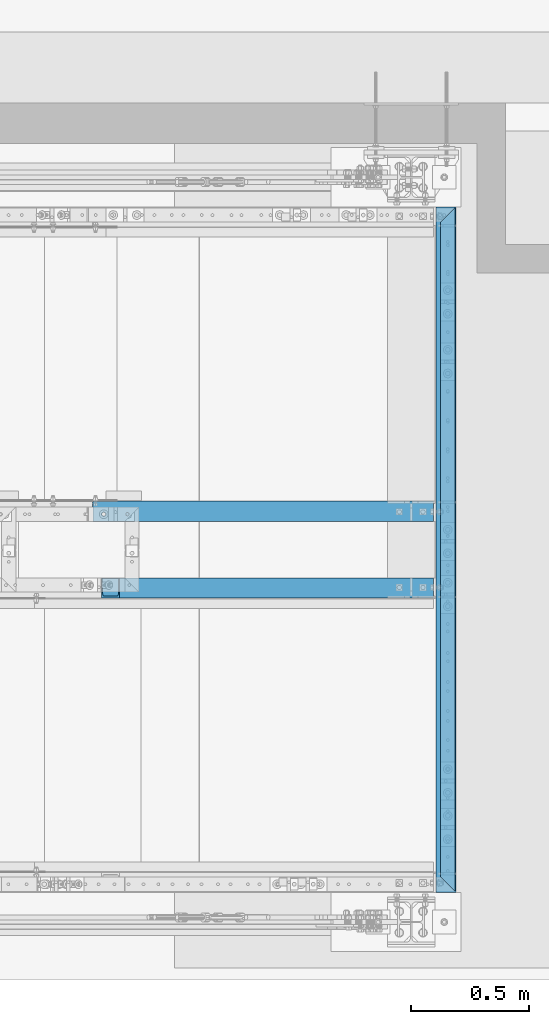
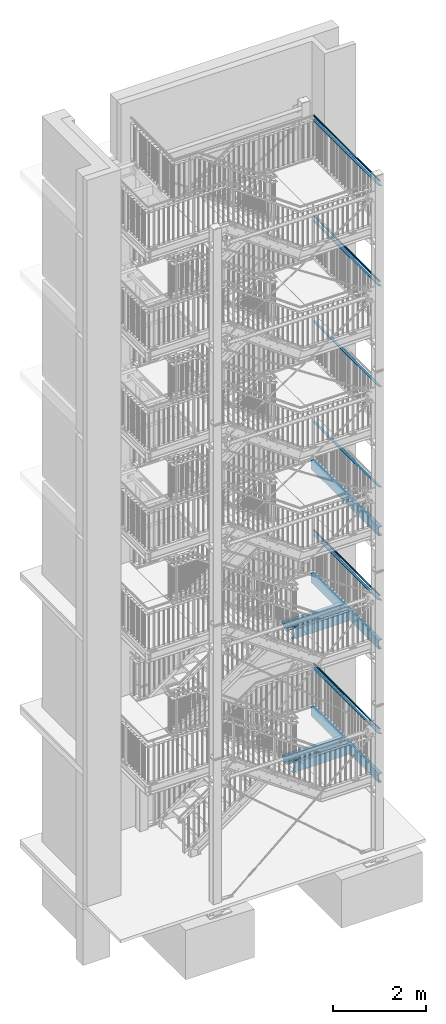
# One storey, part 131 of 831: 17 beams, 54 openings.
"""IFC2X3 building model written with IfcOpenShell, lengths in millimetres."""

from ifc_helpers import new_model, entity, si_unit, converted_unit, frame, frame_2d, origin, origin_with_axes, origin_2d, origin_2d_with_axis, place, context, project, spatial, rectangle, circle, hollow_circle, u_section, extrude, clip, halfspace, material, element, save


model = new_model("IFC2X3")

# Units and contexts
model_context = context("Model", 3, precision=1e-09, world=origin_with_axes())
ifc_project = project(units=[si_unit("LENGTHUNIT", "METRE", prefix="MILLI"), si_unit("AREAUNIT", "SQUARE_METRE"), si_unit("VOLUMEUNIT", "CUBIC_METRE"), converted_unit("PLANEANGLEUNIT", "DEGREE", entity("IfcPlaneAngleMeasure", 0.01745329), si_unit("PLANEANGLEUNIT", "RADIAN"), dimensions=[0, 0, 0, 0, 0, 0, 0])], contexts=[model_context])

# Site, building, storey
site_placement = place(None, origin_with_axes())
site = spatial("IfcSite", under=ifc_project, at=site_placement, Name="Site", CompositionType="ELEMENT")
building_placement = place(site_placement, origin_with_axes())
building = spatial("IfcBuilding", under=site, at=building_placement, Name="Struktur 1", CompositionType="ELEMENT")
storey_placement = place(building_placement, origin_with_axes())
storey = spatial("IfcBuildingStorey", under=building, at=storey_placement, Name="Default Storey", CompositionType="ELEMENT", Elevation=0.0)

# Beams
ifc_material = material(Name="S235JR")
beam_1_placement = place(None, frame((9012.913402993, 7390.336971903, 15036.5000001), z_axis=(0.0, 1.0, 0.0), x_axis=(0.0, 0.0, -1.0)))
element("IfcBeam", 1, at=beam_1_placement, inside=storey, material=ifc_material, Name="Gel?nder", ObjectType="Gel?nder", context=model_context, shape_type="Clipping", body=[
    clip(clip(extrude(hollow_circle(Radius=21.2, WallThickness=3.2, at=origin_2d()), origin(), (0.0, 0.0, -1.0), 2897.2), halfspace(frame((15036.5000001, 8180.424480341, -8222.825894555), z_axis=(0.0, -0.707106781, -0.707106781), x_axis=(0.0, -0.707106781, 0.707106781)), True)), halfspace(frame((15036.5000001, 2238.687508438, -616.111077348), z_axis=(0.0, -0.707106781, 0.707106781), x_axis=(0.0, 0.707106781, 0.707106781)), True)),
])
beam_2_placement = place(None, frame((9012.913402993, 7390.336971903, 17664.0000003), z_axis=(0.0, 1.0, 0.0), x_axis=(0.0, 0.0, -1.0)))
element("IfcBeam", 2, at=beam_2_placement, inside=storey, material=ifc_material, Name="Gel?nder", ObjectType="Gel?nder", context=model_context, shape_type="Clipping", body=[
    clip(clip(extrude(hollow_circle(Radius=21.2, WallThickness=3.2, at=origin_2d()), origin(), (0.0, 0.0, -1.0), 2897.2), halfspace(frame((17664.0000003, 8180.424480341, -8222.825894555), z_axis=(0.0, -0.707106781, -0.707106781), x_axis=(0.0, -0.707106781, 0.707106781)), True)), halfspace(frame((17664.0000003, 2238.687508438, -616.111077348), z_axis=(0.0, -0.707106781, 0.707106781), x_axis=(0.0, 0.707106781, 0.707106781)), True)),
])
beam_3_placement = place(None, frame((9021.713402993, 7399.748598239, 17537.8000003), z_axis=(0.0, 1.0, 0.0), x_axis=(0.0, 0.0, -1.0)))
element("IfcBeam", 3, at=beam_3_placement, inside=storey, material=ifc_material, Name="Railing_Kneerail_Landing#1008", ObjectType="Railing_Kneerail_Landing#1008", context=model_context, shape_type="Clipping", body=[
    clip(clip(extrude(rectangle(XDim=10.0, YDim=60.0, at=origin_2d()), origin(), (0.0, 0.0, -1.0), 2916.02325267), halfspace(frame((17537.8000003, 8189.224480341, -8232.23752089), z_axis=(0.0, -0.707106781, -0.707106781), x_axis=(0.0, -0.707106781, 0.707106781)), True)), halfspace(frame((17537.8000003, 2247.487508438, -625.522703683), z_axis=(0.0, -0.707106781, 0.707106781), x_axis=(0.0, 0.707106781, 0.707106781)), True)),
])
beam_4_placement = place(None, frame((9021.713402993, 7399.748598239, 14910.3000001), z_axis=(0.0, 1.0, 0.0), x_axis=(0.0, 0.0, -1.0)))
element("IfcBeam", 4, at=beam_4_placement, inside=storey, material=ifc_material, Name="Railing_Kneerail_Landing#1011", ObjectType="Railing_Kneerail_Landing#1011", context=model_context, shape_type="Clipping", body=[
    clip(clip(extrude(rectangle(XDim=10.0, YDim=60.0, at=origin_2d()), origin(), (0.0, 0.0, -1.0), 2916.02325267), halfspace(frame((14910.3000001, 2247.487508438, -625.522703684), z_axis=(0.0, -0.707106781, 0.707106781), x_axis=(0.0, 0.707106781, 0.707106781)), True)), halfspace(frame((14910.3000001, 8189.224480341, -8232.23752089), z_axis=(0.0, -0.707106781, -0.707106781), x_axis=(0.0, -0.707106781, 0.707106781)), True)),
])
beam_5_placement = place(None, frame((9021.713402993, 7399.748598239, 12279.3000003), z_axis=(0.0, 1.0, 0.0), x_axis=(0.0, 0.0, -1.0)))
element("IfcBeam", 5, at=beam_5_placement, inside=storey, material=ifc_material, Name="Railing_Kneerail_Landing#1008", ObjectType="Railing_Kneerail_Landing#1008", context=model_context, shape_type="Clipping", body=[
    clip(clip(extrude(rectangle(XDim=10.0, YDim=60.0, at=origin_2d()), origin(), (0.0, 0.0, -1.0), 2916.02325267), halfspace(frame((12279.3000003, 8189.224480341, -8232.23752089), z_axis=(0.0, -0.707106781, -0.707106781), x_axis=(0.0, -0.707106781, 0.707106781)), True)), halfspace(frame((12279.3000003, 2247.487508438, -625.522703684), z_axis=(0.0, -0.707106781, 0.707106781), x_axis=(0.0, 0.707106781, 0.707106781)), True)),
])
beam_6_placement = place(None, frame((9021.713402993, 7399.748598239, 9649.8), z_axis=(0.0, 1.0, 0.0), x_axis=(0.0, 0.0, -1.0)))
element("IfcBeam", 6, at=beam_6_placement, inside=storey, material=ifc_material, Name="Railing_Kneerail_Landing#1011", ObjectType="Railing_Kneerail_Landing#1011", context=model_context, shape_type="Clipping", body=[
    clip(clip(extrude(rectangle(XDim=10.0, YDim=60.0, at=origin_2d()), origin(), (0.0, 0.0, -1.0), 2916.02325267), halfspace(frame((9649.8, 2247.487508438, -625.522703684), z_axis=(0.0, -0.707106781, 0.707106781), x_axis=(0.0, 0.707106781, 0.707106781)), True)), halfspace(frame((9649.8, 8189.224480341, -8232.23752089), z_axis=(0.0, -0.707106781, -0.707106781), x_axis=(0.0, -0.707106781, 0.707106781)), True)),
])
beam_7_placement = place(None, frame((9021.713402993, 7399.748598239, 6688.6947367), z_axis=(0.0, 1.0, 0.0), x_axis=(0.0, 0.0, -1.0)))
element("IfcBeam", 7, at=beam_7_placement, inside=storey, material=ifc_material, Name="Railing_Kneerail_Landing#1008", ObjectType="Railing_Kneerail_Landing#1008", context=model_context, shape_type="Clipping", body=[
    clip(clip(extrude(rectangle(XDim=10.0, YDim=60.0, at=origin_2d()), origin(), (0.0, 0.0, -1.0), 2916.02325267), halfspace(frame((6688.6947367, 8189.224480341, -8232.23752089), z_axis=(0.0, -0.707106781, -0.707106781), x_axis=(0.0, -0.707106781, 0.707106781)), True)), halfspace(frame((6688.6947367, 2247.487508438, -625.522703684), z_axis=(0.0, -0.707106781, 0.707106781), x_axis=(0.0, 0.707106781, 0.707106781)), True)),
])
beam_8_placement = place(None, frame((9021.713402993, 7399.748598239, 3194.8526312), z_axis=(0.0, 1.0, 0.0), x_axis=(0.0, 0.0, -1.0)))
element("IfcBeam", 8, at=beam_8_placement, inside=storey, material=ifc_material, Name="Railing_Kneerail_Landing#1006", ObjectType="Railing_Kneerail_Landing#1006", context=model_context, shape_type="Clipping", body=[
    clip(clip(extrude(rectangle(XDim=10.0, YDim=60.0, at=origin_2d()), origin(), (0.0, 0.0, -1.0), 2916.02325267), halfspace(frame((3194.8526312, 8189.224480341, -8232.23752089), z_axis=(0.0, -0.707106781, -0.707106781), x_axis=(0.0, -0.707106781, 0.707106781)), True)), halfspace(frame((3194.8526312, 2247.487508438, -625.522703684), z_axis=(0.0, -0.707106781, 0.707106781), x_axis=(0.0, 0.707106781, 0.707106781)), True)),
])
beam_9_placement = place(None, frame((9012.913402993, 7390.336971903, 3321.0526312), z_axis=(0.0, 1.0, 0.0), x_axis=(0.0, 0.0, -1.0)))
element("IfcBeam", 9, at=beam_9_placement, inside=storey, material=ifc_material, Name="Gel?nder", ObjectType="Gel?nder", context=model_context, shape_type="Clipping", body=[
    clip(clip(extrude(hollow_circle(Radius=21.2, WallThickness=3.2, at=origin_2d()), origin(), (0.0, 0.0, -1.0), 2897.2), halfspace(frame((3321.0526312, 8180.424480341, -8222.825894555), z_axis=(0.0, -0.707106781, -0.707106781), x_axis=(0.0, -0.707106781, 0.707106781)), True)), halfspace(frame((3321.0526312, 2238.687508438, -616.111077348), z_axis=(0.0, -0.707106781, 0.707106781), x_axis=(0.0, 0.707106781, 0.707106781)), True)),
])
beam_10_placement = place(None, frame((9012.913402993, 7390.336971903, 6814.8947367), z_axis=(0.0, 1.0, 0.0), x_axis=(0.0, 0.0, -1.0)))
element("IfcBeam", 10, at=beam_10_placement, inside=storey, material=ifc_material, Name="Gel?nder", ObjectType="Gel?nder", context=model_context, shape_type="Clipping", body=[
    clip(clip(extrude(hollow_circle(Radius=21.2, WallThickness=3.2, at=origin_2d()), origin(), (0.0, 0.0, -1.0), 2897.2), halfspace(frame((6814.8947367, 8180.424480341, -8222.825894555), z_axis=(0.0, -0.707106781, -0.707106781), x_axis=(0.0, -0.707106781, 0.707106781)), True)), halfspace(frame((6814.8947367, 2238.687508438, -616.111077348), z_axis=(0.0, -0.707106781, 0.707106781), x_axis=(0.0, 0.707106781, 0.707106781)), True)),
])

# Beam, openings
beam_11_placement = place(None, frame((7260.434507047, 6124.436971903, 5554.8947367), z_axis=(-1.0, 0.0, 0.0), x_axis=(0.0, -1.0, 0.0)))
beam_11 = element("IfcBeam", 11, at=beam_11_placement, inside=storey, material=ifc_material, Name="Stringer", ObjectType="Stringer", context=model_context, shape_type="Clipping", body=[
    clip(clip(extrude(u_section(Depth=240.0, FlangeWidth=85.0, WebThickness=9.5, FlangeThickness=13.0, FilletRadius=13.0, EdgeRadius=6.5, FlangeSlope=4.574, at=frame_2d((20.2, 0.0))), origin(), (0.0, 0.0, -1.0), 1958.582666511), halfspace(frame((6124.436971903, -5554.8947367, -1701.277895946), z_axis=(0.0, 0.0, 1.0), x_axis=(1.0, 0.0, 0.0)), True)), halfspace(frame((6124.436971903, -2876.228700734, -1207.214407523), z_axis=(0.0, 0.301609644, -0.953431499), x_axis=(-1.0, 0.0, 0.0)), True)),
])
opening_1_placement = place(beam_11_placement, frame((32.7, 120.5, -399.278395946), z_axis=(0.0, 1.0, 0.0), x_axis=(-1.0, 0.0, 0.0)))
element("IfcOpeningElement", 12, at=opening_1_placement, cuts=beam_11, ObjectType="Opening", context=model_context, shape_type="SweptSolid", body=[
    extrude(circle(Radius=7.001, at=frame_2d((0.0, -7.001), x_axis=(1.0, 0.0))), origin(), (0.0, 0.0, -1.0), 14.0),
])
opening_2_placement = place(beam_11_placement, frame((32.7, 120.5, -299.278395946), z_axis=(0.0, 1.0, 0.0), x_axis=(-1.0, 0.0, 0.0)))
element("IfcOpeningElement", 13, at=opening_2_placement, cuts=beam_11, ObjectType="Opening", context=model_context, shape_type="SweptSolid", body=[
    extrude(circle(Radius=7.001, at=frame_2d((0.0, -7.001), x_axis=(1.0, 0.0))), origin(), (0.0, 0.0, -1.0), 14.0),
])
opening_3_placement = place(beam_11_placement, frame((22.7, -120.5, -1556.278895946), z_axis=(0.0, 1.0, 0.0), x_axis=(-1.0, 0.0, 0.0)))
element("IfcOpeningElement", 14, at=opening_3_placement, cuts=beam_11, ObjectType="Opening", context=model_context, shape_type="SweptSolid", body=[
    extrude(circle(Radius=7.001, at=origin_2d_with_axis()), origin(), (0.0, 0.0, 1.0), 14.0),
])
opening_4_placement = place(beam_11_placement, frame((22.7, -120.5, -1656.278895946), z_axis=(0.0, 1.0, 0.0), x_axis=(-1.0, 0.0, 0.0)))
element("IfcOpeningElement", 15, at=opening_4_placement, cuts=beam_11, ObjectType="Opening", context=model_context, shape_type="SweptSolid", body=[
    extrude(circle(Radius=7.001, at=origin_2d_with_axis()), origin(), (0.0, 0.0, 1.0), 14.0),
])

beam_12_placement = place(None, frame((7260.901415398, 6124.436971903, 2061.0526312), z_axis=(-1.0, 0.0, 0.0), x_axis=(0.0, -1.0, 0.0)))
beam_12 = element("IfcBeam", 16, at=beam_12_placement, inside=storey, material=ifc_material, Name="Stringer", ObjectType="Stringer", context=model_context, shape_type="Clipping", body=[
    clip(clip(extrude(u_section(Depth=240.0, FlangeWidth=85.0, WebThickness=9.5, FlangeThickness=13.0, FilletRadius=13.0, EdgeRadius=6.5, FlangeSlope=4.574, at=frame_2d((20.2, 0.0))), origin(), (0.0, 0.0, -1.0), 1958.11575816), halfspace(frame((6124.436971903, -2061.0526312, -1700.810987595), z_axis=(0.0, 0.0, 1.0), x_axis=(1.0, 0.0, 0.0)), True)), halfspace(frame((6124.436971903, 321.948595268, -195.084170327), z_axis=(0.0, 0.304437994, -0.952532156), x_axis=(-1.0, 0.0, 0.0)), True)),
])
opening_5_placement = place(beam_12_placement, frame((32.7, 120.5, -398.811487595), z_axis=(0.0, 1.0, 0.0), x_axis=(-1.0, 0.0, 0.0)))
element("IfcOpeningElement", 17, at=opening_5_placement, cuts=beam_12, ObjectType="Opening", context=model_context, shape_type="SweptSolid", body=[
    extrude(circle(Radius=7.001, at=frame_2d((0.0, -7.001), x_axis=(1.0, 0.0))), origin(), (0.0, 0.0, -1.0), 14.0),
])
opening_6_placement = place(beam_12_placement, frame((32.7, 120.5, -298.811487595), z_axis=(0.0, 1.0, 0.0), x_axis=(-1.0, 0.0, 0.0)))
element("IfcOpeningElement", 18, at=opening_6_placement, cuts=beam_12, ObjectType="Opening", context=model_context, shape_type="SweptSolid", body=[
    extrude(circle(Radius=7.001, at=frame_2d((0.0, -7.001), x_axis=(1.0, 0.0))), origin(), (0.0, 0.0, -1.0), 14.0),
])
opening_7_placement = place(beam_12_placement, frame((22.7, -120.5, -1555.811987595), z_axis=(0.0, 1.0, 0.0), x_axis=(-1.0, 0.0, 0.0)))
element("IfcOpeningElement", 19, at=opening_7_placement, cuts=beam_12, ObjectType="Opening", context=model_context, shape_type="SweptSolid", body=[
    extrude(circle(Radius=7.001, at=origin_2d_with_axis()), origin(), (0.0, 0.0, 1.0), 14.0),
])
opening_8_placement = place(beam_12_placement, frame((22.7, -120.5, -1655.811987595), z_axis=(0.0, 1.0, 0.0), x_axis=(-1.0, 0.0, 0.0)))
element("IfcOpeningElement", 20, at=opening_8_placement, cuts=beam_12, ObjectType="Opening", context=model_context, shape_type="SweptSolid", body=[
    extrude(circle(Radius=7.001, at=origin_2d_with_axis()), origin(), (0.0, 0.0, 1.0), 14.0),
])

beam_13_placement = place(None, frame((9219.017173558, 5759.036971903, 2061.0526312), z_axis=(1.0, 0.0, 0.0), x_axis=(0.0, 1.0, 0.0)))
beam_13 = element("IfcBeam", 21, at=beam_13_placement, inside=storey, material=ifc_material, Name="BottomLanding#1", ObjectType="BottomLanding#1", context=model_context, shape_type="Clipping", body=[
    clip(clip(extrude(u_section(Depth=240.0, FlangeWidth=85.0, WebThickness=9.5, FlangeThickness=13.0, FilletRadius=13.0, EdgeRadius=6.5, FlangeSlope=4.574, at=frame_2d((20.2, 0.0))), origin(), (0.0, 0.0, -1.0), 1845.747262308), halfspace(frame((-5759.036971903, -2061.0526312, -257.304770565), z_axis=(0.0, 0.0, -1.0), x_axis=(-1.0, 0.0, 0.0)), True)), halfspace(frame((-5759.036971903, -4072.348471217, -2926.031410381), z_axis=(0.0, -0.304437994, 0.952532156), x_axis=(1.0, 0.0, 0.0)), True)),
])
opening_9_placement = place(beam_13_placement, frame((15.699, -120.5, -402.303770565), z_axis=(0.0, -1.0, 0.0), x_axis=(1.0, 0.0, 0.0)))
element("IfcOpeningElement", 22, at=opening_9_placement, cuts=beam_13, ObjectType="Opening", context=model_context, shape_type="SweptSolid", body=[
    extrude(circle(Radius=7.001, at=frame_2d((7.001, 0.0), x_axis=(1.0, 0.0))), origin(), (0.0, 0.0, -1.0), 14.0),
])
opening_10_placement = place(beam_13_placement, frame((15.699, -120.5, -302.303770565), z_axis=(0.0, -1.0, 0.0), x_axis=(1.0, 0.0, 0.0)))
element("IfcOpeningElement", 23, at=opening_10_placement, cuts=beam_13, ObjectType="Opening", context=model_context, shape_type="SweptSolid", body=[
    extrude(circle(Radius=7.001, at=frame_2d((7.001, 0.0), x_axis=(1.0, 0.0))), origin(), (0.0, 0.0, -1.0), 14.0),
])

beam_14_placement = place(None, frame((9219.017173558, 5759.036971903, 5554.8947367), z_axis=(1.0, 0.0, 0.0), x_axis=(0.0, 1.0, 0.0)))
beam_14 = element("IfcBeam", 24, at=beam_14_placement, inside=storey, material=ifc_material, Name="BottomLanding#1", ObjectType="BottomLanding#1", context=model_context, shape_type="Clipping", body=[
    clip(clip(extrude(u_section(Depth=240.0, FlangeWidth=85.0, WebThickness=9.5, FlangeThickness=13.0, FilletRadius=13.0, EdgeRadius=6.5, FlangeSlope=4.574, at=frame_2d((20.2, 0.0))), origin(), (0.0, 0.0, -1.0), 1844.790556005), halfspace(frame((-5759.036971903, -5554.8947367, -257.304770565), z_axis=(0.0, 0.0, -1.0), x_axis=(-1.0, 0.0, 0.0)), True)), halfspace(frame((-5759.036971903, -7233.811372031, -3911.720022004), z_axis=(0.0, -0.301609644, 0.953431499), x_axis=(1.0, 0.0, 0.0)), True)),
])
opening_11_placement = place(beam_14_placement, frame((15.699, -120.5, -402.303770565), z_axis=(0.0, -1.0, 0.0), x_axis=(1.0, 0.0, 0.0)))
element("IfcOpeningElement", 25, at=opening_11_placement, cuts=beam_14, ObjectType="Opening", context=model_context, shape_type="SweptSolid", body=[
    extrude(circle(Radius=7.001, at=frame_2d((7.001, 0.0), x_axis=(1.0, 0.0))), origin(), (0.0, 0.0, -1.0), 14.0),
])
opening_12_placement = place(beam_14_placement, frame((15.699, -120.5, -302.303770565), z_axis=(0.0, -1.0, 0.0), x_axis=(1.0, 0.0, 0.0)))
element("IfcOpeningElement", 26, at=opening_12_placement, cuts=beam_14, ObjectType="Opening", context=model_context, shape_type="SweptSolid", body=[
    extrude(circle(Radius=7.001, at=frame_2d((7.001, 0.0), x_axis=(1.0, 0.0))), origin(), (0.0, 0.0, -1.0), 14.0),
])

beam_15_placement = place(None, frame((8994.013402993, 7391.736971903, 2061.0526312), z_axis=(0.0, -1.0, 0.0), x_axis=(1.0, 0.0, 0.0)))
beam_15 = element("IfcBeam", 27, at=beam_15_placement, inside=storey, material=ifc_material, Name="Girder", ObjectType="Girder", context=model_context, shape_type="SweptSolid", body=[
    extrude(u_section(Depth=240.0, FlangeWidth=85.0, WebThickness=9.5, FlangeThickness=13.0, FilletRadius=13.0, EdgeRadius=6.5, FlangeSlope=4.574, at=frame_2d((20.2, 0.0))), origin(), (0.0, 0.0, 1.0), 2900.0),
])
opening_13_placement = place(beam_15_placement, frame((27.7, 120.5, 2471.461175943), z_axis=(0.0, 1.0, 0.0), x_axis=(-1.0, 0.0, 0.0)))
element("IfcOpeningElement", 28, at=opening_13_placement, cuts=beam_15, ObjectType="Opening", context=model_context, shape_type="SweptSolid", body=[
    extrude(circle(Radius=7.001, at=frame_2d((0.0, 7.001), x_axis=(1.0, 0.0))), origin(), (0.0, 0.0, -1.0), 14.0),
])
opening_14_placement = place(beam_15_placement, frame((27.7, 120.5, 2371.461175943), z_axis=(0.0, 1.0, 0.0), x_axis=(-1.0, 0.0, 0.0)))
element("IfcOpeningElement", 29, at=opening_14_placement, cuts=beam_15, ObjectType="Opening", context=model_context, shape_type="SweptSolid", body=[
    extrude(circle(Radius=7.001, at=frame_2d((0.0, 7.001), x_axis=(1.0, 0.0))), origin(), (0.0, 0.0, -1.0), 14.0),
])
opening_15_placement = place(beam_15_placement, frame((27.7, 120.5, 1458.38405822), z_axis=(0.0, 1.0, 0.0), x_axis=(-1.0, 0.0, 0.0)))
element("IfcOpeningElement", 30, at=opening_15_placement, cuts=beam_15, ObjectType="Opening", context=model_context, shape_type="SweptSolid", body=[
    extrude(circle(Radius=7.001, at=frame_2d((0.0, 7.001), x_axis=(1.0, 0.0))), origin(), (0.0, 0.0, -1.0), 14.0),
])
opening_16_placement = place(beam_15_placement, frame((27.7, 120.5, 1358.38405822), z_axis=(0.0, 1.0, 0.0), x_axis=(-1.0, 0.0, 0.0)))
element("IfcOpeningElement", 31, at=opening_16_placement, cuts=beam_15, ObjectType="Opening", context=model_context, shape_type="SweptSolid", body=[
    extrude(circle(Radius=7.001, at=frame_2d((0.0, 7.001), x_axis=(1.0, 0.0))), origin(), (0.0, 0.0, -1.0), 14.0),
])
opening_17_placement = place(beam_15_placement, frame((27.7, 120.5, 445.306940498), z_axis=(0.0, 1.0, 0.0), x_axis=(-1.0, 0.0, 0.0)))
element("IfcOpeningElement", 32, at=opening_17_placement, cuts=beam_15, ObjectType="Opening", context=model_context, shape_type="SweptSolid", body=[
    extrude(circle(Radius=7.001, at=frame_2d((0.0, 7.001), x_axis=(1.0, 0.0))), origin(), (0.0, 0.0, -1.0), 14.0),
])
opening_18_placement = place(beam_15_placement, frame((27.7, 120.5, 345.306940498), z_axis=(0.0, 1.0, 0.0), x_axis=(-1.0, 0.0, 0.0)))
element("IfcOpeningElement", 33, at=opening_18_placement, cuts=beam_15, ObjectType="Opening", context=model_context, shape_type="SweptSolid", body=[
    extrude(circle(Radius=7.001, at=frame_2d((0.0, 7.001), x_axis=(1.0, 0.0))), origin(), (0.0, 0.0, -1.0), 14.0),
])
opening_19_placement = place(beam_15_placement, frame((-12.3, 0.0, 1610.0), z_axis=(-1.0, 0.0, 0.0), x_axis=(0.0, 1.0, 0.0)))
element("IfcOpeningElement", 34, at=opening_19_placement, cuts=beam_15, ObjectType="Opening", context=model_context, shape_type="SweptSolid", body=[
    extrude(circle(Radius=9.001, at=frame_2d((60.0, 0.0), x_axis=(1.0, 0.0))), origin(), (0.0, 0.0, 1.0), 10.5),
])
opening_20_placement = place(beam_15_placement, frame((-12.3, 0.0, 1610.0), z_axis=(-1.0, 0.0, 0.0), x_axis=(0.0, 1.0, 0.0)))
element("IfcOpeningElement", 35, at=opening_20_placement, cuts=beam_15, ObjectType="Opening", context=model_context, shape_type="SweptSolid", body=[
    extrude(circle(Radius=9.001, at=frame_2d((-60.0, 0.0), x_axis=(1.0, 0.0))), origin(), (0.0, 0.0, 1.0), 10.5),
])
opening_21_placement = place(beam_15_placement, frame((-12.3, 0.0, 40.0), z_axis=(-1.0, 0.0, 0.0), x_axis=(0.0, 1.0, 0.0)))
element("IfcOpeningElement", 36, at=opening_21_placement, cuts=beam_15, ObjectType="Opening", context=model_context, shape_type="SweptSolid", body=[
    extrude(circle(Radius=9.001, at=frame_2d((60.0, 0.0), x_axis=(1.0, 0.0))), origin(), (0.0, 0.0, 1.0), 10.5),
])
opening_22_placement = place(beam_15_placement, frame((-12.3, 0.0, 40.0), z_axis=(-1.0, 0.0, 0.0), x_axis=(0.0, 1.0, 0.0)))
element("IfcOpeningElement", 37, at=opening_22_placement, cuts=beam_15, ObjectType="Opening", context=model_context, shape_type="SweptSolid", body=[
    extrude(circle(Radius=9.001, at=frame_2d((-60.0, 0.0), x_axis=(1.0, 0.0))), origin(), (0.0, 0.0, 1.0), 10.5),
])
opening_23_placement = place(beam_15_placement, frame((-12.3, 50.999, 1290.0), z_axis=(1.0, 0.0, 0.0), x_axis=(0.0, 1.0, 0.0)))
element("IfcOpeningElement", 38, at=opening_23_placement, cuts=beam_15, ObjectType="Opening", context=model_context, shape_type="SweptSolid", body=[
    extrude(circle(Radius=9.001, at=frame_2d((9.001, 0.0), x_axis=(1.0, 0.0))), origin(), (0.0, 0.0, -1.0), 10.5),
])
opening_24_placement = place(beam_15_placement, frame((-12.3, -69.001, 1290.0), z_axis=(1.0, 0.0, 0.0), x_axis=(0.0, 1.0, 0.0)))
element("IfcOpeningElement", 39, at=opening_24_placement, cuts=beam_15, ObjectType="Opening", context=model_context, shape_type="SweptSolid", body=[
    extrude(circle(Radius=9.001, at=frame_2d((9.001, 0.0), x_axis=(1.0, 0.0))), origin(), (0.0, 0.0, -1.0), 10.5),
])
opening_25_placement = place(beam_15_placement, frame((-12.3, 50.999, 2860.0), z_axis=(1.0, 0.0, 0.0), x_axis=(0.0, 1.0, 0.0)))
element("IfcOpeningElement", 40, at=opening_25_placement, cuts=beam_15, ObjectType="Opening", context=model_context, shape_type="SweptSolid", body=[
    extrude(circle(Radius=9.001, at=frame_2d((9.001, 0.0), x_axis=(1.0, 0.0))), origin(), (0.0, 0.0, -1.0), 10.5),
])
opening_26_placement = place(beam_15_placement, frame((-12.3, -69.001, 2860.0), z_axis=(1.0, 0.0, 0.0), x_axis=(0.0, 1.0, 0.0)))
element("IfcOpeningElement", 41, at=opening_26_placement, cuts=beam_15, ObjectType="Opening", context=model_context, shape_type="SweptSolid", body=[
    extrude(circle(Radius=9.001, at=frame_2d((9.001, 0.0), x_axis=(1.0, 0.0))), origin(), (0.0, 0.0, -1.0), 10.5),
])

beam_16_placement = place(None, frame((8994.013402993, 7391.736971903, 5554.8947367), z_axis=(0.0, -1.0, 0.0), x_axis=(1.0, 0.0, 0.0)))
beam_16 = element("IfcBeam", 42, at=beam_16_placement, inside=storey, material=ifc_material, Name="Girder", ObjectType="Girder", context=model_context, shape_type="SweptSolid", body=[
    extrude(u_section(Depth=240.0, FlangeWidth=85.0, WebThickness=9.5, FlangeThickness=13.0, FilletRadius=13.0, EdgeRadius=6.5, FlangeSlope=4.574, at=frame_2d((20.2, 0.0))), origin(), (0.0, 0.0, 1.0), 2900.0),
])
opening_27_placement = place(beam_16_placement, frame((27.7, 120.5, 2668.0), z_axis=(0.0, 1.0, 0.0), x_axis=(-1.0, 0.0, 0.0)))
element("IfcOpeningElement", 43, at=opening_27_placement, cuts=beam_16, ObjectType="Opening", context=model_context, shape_type="SweptSolid", body=[
    extrude(circle(Radius=7.001, at=frame_2d((0.0, 7.001), x_axis=(1.0, 0.0))), origin(), (0.0, 0.0, -1.0), 14.0),
])
opening_28_placement = place(beam_16_placement, frame((27.7, 120.5, 2568.0), z_axis=(0.0, 1.0, 0.0), x_axis=(-1.0, 0.0, 0.0)))
element("IfcOpeningElement", 44, at=opening_28_placement, cuts=beam_16, ObjectType="Opening", context=model_context, shape_type="SweptSolid", body=[
    extrude(circle(Radius=7.001, at=frame_2d((0.0, 7.001), x_axis=(1.0, 0.0))), origin(), (0.0, 0.0, -1.0), 14.0),
])
opening_29_placement = place(beam_16_placement, frame((27.7, 120.5, 1682.999857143), z_axis=(0.0, 1.0, 0.0), x_axis=(-1.0, 0.0, 0.0)))
element("IfcOpeningElement", 45, at=opening_29_placement, cuts=beam_16, ObjectType="Opening", context=model_context, shape_type="SweptSolid", body=[
    extrude(circle(Radius=7.001, at=frame_2d((0.0, 7.001), x_axis=(1.0, 0.0))), origin(), (0.0, 0.0, -1.0), 14.0),
])
opening_30_placement = place(beam_16_placement, frame((27.7, 120.5, 1582.999857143), z_axis=(0.0, 1.0, 0.0), x_axis=(-1.0, 0.0, 0.0)))
element("IfcOpeningElement", 46, at=opening_30_placement, cuts=beam_16, ObjectType="Opening", context=model_context, shape_type="SweptSolid", body=[
    extrude(circle(Radius=7.001, at=frame_2d((0.0, 7.001), x_axis=(1.0, 0.0))), origin(), (0.0, 0.0, -1.0), 14.0),
])
opening_31_placement = place(beam_16_placement, frame((27.7, 120.5, 697.999714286), z_axis=(0.0, 1.0, 0.0), x_axis=(-1.0, 0.0, 0.0)))
element("IfcOpeningElement", 47, at=opening_31_placement, cuts=beam_16, ObjectType="Opening", context=model_context, shape_type="SweptSolid", body=[
    extrude(circle(Radius=7.001, at=frame_2d((0.0, 7.001), x_axis=(1.0, 0.0))), origin(), (0.0, 0.0, -1.0), 14.0),
])
opening_32_placement = place(beam_16_placement, frame((27.7, 120.5, 597.999714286), z_axis=(0.0, 1.0, 0.0), x_axis=(-1.0, 0.0, 0.0)))
element("IfcOpeningElement", 48, at=opening_32_placement, cuts=beam_16, ObjectType="Opening", context=model_context, shape_type="SweptSolid", body=[
    extrude(circle(Radius=7.001, at=frame_2d((0.0, 7.001), x_axis=(1.0, 0.0))), origin(), (0.0, 0.0, -1.0), 14.0),
])
opening_33_placement = place(beam_16_placement, frame((-12.3, 50.999, 2860.0), z_axis=(1.0, 0.0, 0.0), x_axis=(0.0, 1.0, 0.0)))
element("IfcOpeningElement", 49, at=opening_33_placement, cuts=beam_16, ObjectType="Opening", context=model_context, shape_type="SweptSolid", body=[
    extrude(circle(Radius=9.001, at=frame_2d((9.001, 0.0), x_axis=(1.0, 0.0))), origin(), (0.0, 0.0, -1.0), 10.5),
])
opening_34_placement = place(beam_16_placement, frame((-12.3, -69.001, 2860.0), z_axis=(1.0, 0.0, 0.0), x_axis=(0.0, 1.0, 0.0)))
element("IfcOpeningElement", 50, at=opening_34_placement, cuts=beam_16, ObjectType="Opening", context=model_context, shape_type="SweptSolid", body=[
    extrude(circle(Radius=9.001, at=frame_2d((9.001, 0.0), x_axis=(1.0, 0.0))), origin(), (0.0, 0.0, -1.0), 10.5),
])
opening_35_placement = place(beam_16_placement, frame((-12.3, 0.0, 1610.0), z_axis=(-1.0, 0.0, 0.0), x_axis=(0.0, 1.0, 0.0)))
element("IfcOpeningElement", 51, at=opening_35_placement, cuts=beam_16, ObjectType="Opening", context=model_context, shape_type="SweptSolid", body=[
    extrude(circle(Radius=9.001, at=frame_2d((60.0, 0.0), x_axis=(1.0, 0.0))), origin(), (0.0, 0.0, 1.0), 10.5),
])
opening_36_placement = place(beam_16_placement, frame((-12.3, 0.0, 1610.0), z_axis=(-1.0, 0.0, 0.0), x_axis=(0.0, 1.0, 0.0)))
element("IfcOpeningElement", 52, at=opening_36_placement, cuts=beam_16, ObjectType="Opening", context=model_context, shape_type="SweptSolid", body=[
    extrude(circle(Radius=9.001, at=frame_2d((-60.0, 0.0), x_axis=(1.0, 0.0))), origin(), (0.0, 0.0, 1.0), 10.5),
])
opening_37_placement = place(beam_16_placement, frame((-12.3, 50.999, 1290.0), z_axis=(1.0, 0.0, 0.0), x_axis=(0.0, 1.0, 0.0)))
element("IfcOpeningElement", 53, at=opening_37_placement, cuts=beam_16, ObjectType="Opening", context=model_context, shape_type="SweptSolid", body=[
    extrude(circle(Radius=9.001, at=frame_2d((9.001, 0.0), x_axis=(1.0, 0.0))), origin(), (0.0, 0.0, -1.0), 10.5),
])
opening_38_placement = place(beam_16_placement, frame((-12.3, -69.001, 1290.0), z_axis=(1.0, 0.0, 0.0), x_axis=(0.0, 1.0, 0.0)))
element("IfcOpeningElement", 54, at=opening_38_placement, cuts=beam_16, ObjectType="Opening", context=model_context, shape_type="SweptSolid", body=[
    extrude(circle(Radius=9.001, at=frame_2d((9.001, 0.0), x_axis=(1.0, 0.0))), origin(), (0.0, 0.0, -1.0), 10.5),
])
opening_39_placement = place(beam_16_placement, frame((-12.3, 0.0, 40.0), z_axis=(-1.0, 0.0, 0.0), x_axis=(0.0, 1.0, 0.0)))
element("IfcOpeningElement", 55, at=opening_39_placement, cuts=beam_16, ObjectType="Opening", context=model_context, shape_type="SweptSolid", body=[
    extrude(circle(Radius=9.001, at=frame_2d((60.0, 0.0), x_axis=(1.0, 0.0))), origin(), (0.0, 0.0, 1.0), 10.5),
])
opening_40_placement = place(beam_16_placement, frame((-12.3, 0.0, 40.0), z_axis=(-1.0, 0.0, 0.0), x_axis=(0.0, 1.0, 0.0)))
element("IfcOpeningElement", 56, at=opening_40_placement, cuts=beam_16, ObjectType="Opening", context=model_context, shape_type="SweptSolid", body=[
    extrude(circle(Radius=9.001, at=frame_2d((-60.0, 0.0), x_axis=(1.0, 0.0))), origin(), (0.0, 0.0, 1.0), 10.5),
])

beam_17_placement = place(None, frame((8994.013402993, 7391.736971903, 8516.0), z_axis=(0.0, -1.0, 0.0), x_axis=(1.0, 0.0, 0.0)))
beam_17 = element("IfcBeam", 57, at=beam_17_placement, inside=storey, material=ifc_material, Name="Girder", ObjectType="Girder", context=model_context, shape_type="SweptSolid", body=[
    extrude(u_section(Depth=240.0, FlangeWidth=85.0, WebThickness=9.5, FlangeThickness=13.0, FilletRadius=13.0, EdgeRadius=6.5, FlangeSlope=4.574, at=frame_2d((20.2, 0.0))), origin(), (0.0, 0.0, 1.0), 2900.0),
])
opening_41_placement = place(beam_17_placement, frame((27.7, 120.5, 2668.0), z_axis=(0.0, 1.0, 0.0), x_axis=(-1.0, 0.0, 0.0)))
element("IfcOpeningElement", 58, at=opening_41_placement, cuts=beam_17, ObjectType="Opening", context=model_context, shape_type="SweptSolid", body=[
    extrude(circle(Radius=7.001, at=frame_2d((0.0, 7.001), x_axis=(1.0, 0.0))), origin(), (0.0, 0.0, -1.0), 14.0),
])
opening_42_placement = place(beam_17_placement, frame((27.7, 120.5, 2568.0), z_axis=(0.0, 1.0, 0.0), x_axis=(-1.0, 0.0, 0.0)))
element("IfcOpeningElement", 59, at=opening_42_placement, cuts=beam_17, ObjectType="Opening", context=model_context, shape_type="SweptSolid", body=[
    extrude(circle(Radius=7.001, at=frame_2d((0.0, 7.001), x_axis=(1.0, 0.0))), origin(), (0.0, 0.0, -1.0), 14.0),
])
opening_43_placement = place(beam_17_placement, frame((27.7, 120.5, 1682.999857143), z_axis=(0.0, 1.0, 0.0), x_axis=(-1.0, 0.0, 0.0)))
element("IfcOpeningElement", 60, at=opening_43_placement, cuts=beam_17, ObjectType="Opening", context=model_context, shape_type="SweptSolid", body=[
    extrude(circle(Radius=7.001, at=frame_2d((0.0, 7.001), x_axis=(1.0, 0.0))), origin(), (0.0, 0.0, -1.0), 14.0),
])
opening_44_placement = place(beam_17_placement, frame((27.7, 120.5, 1582.999857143), z_axis=(0.0, 1.0, 0.0), x_axis=(-1.0, 0.0, 0.0)))
element("IfcOpeningElement", 61, at=opening_44_placement, cuts=beam_17, ObjectType="Opening", context=model_context, shape_type="SweptSolid", body=[
    extrude(circle(Radius=7.001, at=frame_2d((0.0, 7.001), x_axis=(1.0, 0.0))), origin(), (0.0, 0.0, -1.0), 14.0),
])
opening_45_placement = place(beam_17_placement, frame((27.7, 120.5, 697.999714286), z_axis=(0.0, 1.0, 0.0), x_axis=(-1.0, 0.0, 0.0)))
element("IfcOpeningElement", 62, at=opening_45_placement, cuts=beam_17, ObjectType="Opening", context=model_context, shape_type="SweptSolid", body=[
    extrude(circle(Radius=7.001, at=frame_2d((0.0, 7.001), x_axis=(1.0, 0.0))), origin(), (0.0, 0.0, -1.0), 14.0),
])
opening_46_placement = place(beam_17_placement, frame((27.7, 120.5, 597.999714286), z_axis=(0.0, 1.0, 0.0), x_axis=(-1.0, 0.0, 0.0)))
element("IfcOpeningElement", 63, at=opening_46_placement, cuts=beam_17, ObjectType="Opening", context=model_context, shape_type="SweptSolid", body=[
    extrude(circle(Radius=7.001, at=frame_2d((0.0, 7.001), x_axis=(1.0, 0.0))), origin(), (0.0, 0.0, -1.0), 14.0),
])
opening_47_placement = place(beam_17_placement, frame((-12.3, 0.0, 40.0), z_axis=(-1.0, 0.0, 0.0), x_axis=(0.0, 1.0, 0.0)))
element("IfcOpeningElement", 64, at=opening_47_placement, cuts=beam_17, ObjectType="Opening", context=model_context, shape_type="SweptSolid", body=[
    extrude(circle(Radius=9.001, at=frame_2d((60.0, 0.0), x_axis=(1.0, 0.0))), origin(), (0.0, 0.0, 1.0), 10.5),
])
opening_48_placement = place(beam_17_placement, frame((-12.3, 0.0, 40.0), z_axis=(-1.0, 0.0, 0.0), x_axis=(0.0, 1.0, 0.0)))
element("IfcOpeningElement", 65, at=opening_48_placement, cuts=beam_17, ObjectType="Opening", context=model_context, shape_type="SweptSolid", body=[
    extrude(circle(Radius=9.001, at=frame_2d((-60.0, 0.0), x_axis=(1.0, 0.0))), origin(), (0.0, 0.0, 1.0), 10.5),
])
opening_49_placement = place(beam_17_placement, frame((-12.3, 50.999, 1290.0), z_axis=(1.0, 0.0, 0.0), x_axis=(0.0, 1.0, 0.0)))
element("IfcOpeningElement", 66, at=opening_49_placement, cuts=beam_17, ObjectType="Opening", context=model_context, shape_type="SweptSolid", body=[
    extrude(circle(Radius=9.001, at=frame_2d((9.001, 0.0), x_axis=(1.0, 0.0))), origin(), (0.0, 0.0, -1.0), 10.5),
])
opening_50_placement = place(beam_17_placement, frame((-12.3, -69.001, 1290.0), z_axis=(1.0, 0.0, 0.0), x_axis=(0.0, 1.0, 0.0)))
element("IfcOpeningElement", 67, at=opening_50_placement, cuts=beam_17, ObjectType="Opening", context=model_context, shape_type="SweptSolid", body=[
    extrude(circle(Radius=9.001, at=frame_2d((9.001, 0.0), x_axis=(1.0, 0.0))), origin(), (0.0, 0.0, -1.0), 10.5),
])
opening_51_placement = place(beam_17_placement, frame((-12.3, 0.0, 1610.0), z_axis=(-1.0, 0.0, 0.0), x_axis=(0.0, 1.0, 0.0)))
element("IfcOpeningElement", 68, at=opening_51_placement, cuts=beam_17, ObjectType="Opening", context=model_context, shape_type="SweptSolid", body=[
    extrude(circle(Radius=9.001, at=frame_2d((60.0, 0.0), x_axis=(1.0, 0.0))), origin(), (0.0, 0.0, 1.0), 10.5),
])
opening_52_placement = place(beam_17_placement, frame((-12.3, 0.0, 1610.0), z_axis=(-1.0, 0.0, 0.0), x_axis=(0.0, 1.0, 0.0)))
element("IfcOpeningElement", 69, at=opening_52_placement, cuts=beam_17, ObjectType="Opening", context=model_context, shape_type="SweptSolid", body=[
    extrude(circle(Radius=9.001, at=frame_2d((-60.0, 0.0), x_axis=(1.0, 0.0))), origin(), (0.0, 0.0, 1.0), 10.5),
])
opening_53_placement = place(beam_17_placement, frame((-12.3, 50.999, 2860.0), z_axis=(1.0, 0.0, 0.0), x_axis=(0.0, 1.0, 0.0)))
element("IfcOpeningElement", 70, at=opening_53_placement, cuts=beam_17, ObjectType="Opening", context=model_context, shape_type="SweptSolid", body=[
    extrude(circle(Radius=9.001, at=frame_2d((9.001, 0.0), x_axis=(1.0, 0.0))), origin(), (0.0, 0.0, -1.0), 10.5),
])
opening_54_placement = place(beam_17_placement, frame((-12.3, -69.001, 2860.0), z_axis=(1.0, 0.0, 0.0), x_axis=(0.0, 1.0, 0.0)))
element("IfcOpeningElement", 71, at=opening_54_placement, cuts=beam_17, ObjectType="Opening", context=model_context, shape_type="SweptSolid", body=[
    extrude(circle(Radius=9.001, at=frame_2d((9.001, 0.0), x_axis=(1.0, 0.0))), origin(), (0.0, 0.0, -1.0), 10.5),
])

save(model, "model.ifc")
